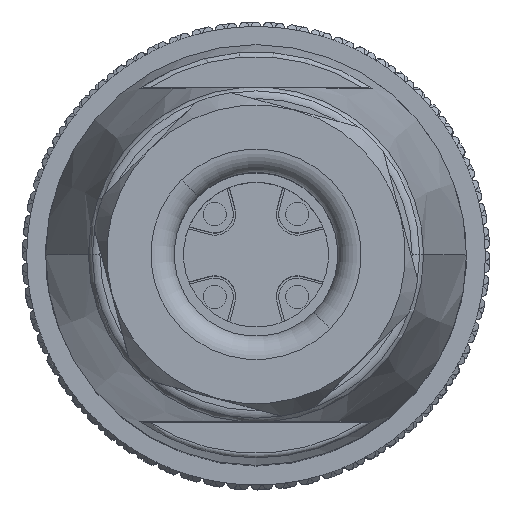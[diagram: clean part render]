
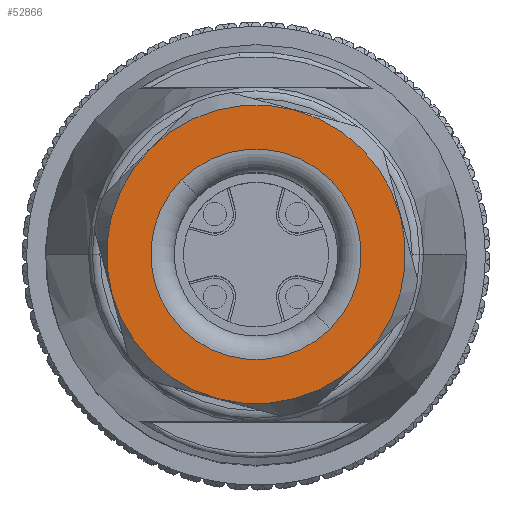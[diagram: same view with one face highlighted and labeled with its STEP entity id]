
A CAD part, top view. The second image highlights one B-rep face of the part: STEP entity #52866.
In plain terms, the highlighted planar face has unit normal (0, 0, 1).
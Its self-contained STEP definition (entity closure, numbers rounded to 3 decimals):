
#17049=CARTESIAN_POINT('',(0.,0.,
39.11));
#17050=DIRECTION('',(0.,0.,-1.));
#17051=DIRECTION('',(0.707,-0.707,0.));
#17052=AXIS2_PLACEMENT_3D('',#17049,#17050,#17051);
#17054=CARTESIAN_POINT('',(0.,0.,
39.11));
#17055=DIRECTION('',(0.,0.,-1.));
#17056=DIRECTION('',(-0.707,0.707,0.));
#17057=AXIS2_PLACEMENT_3D('',#17054,#17055,#17056);
#17059=CARTESIAN_POINT('',(0.,0.,
39.11));
#17060=DIRECTION('',(0.,0.,1.));
#17061=DIRECTION('',(-0.707,0.707,0.));
#17062=AXIS2_PLACEMENT_3D('',#17059,#17060,#17061);
#17064=CARTESIAN_POINT('',(0.,0.,
39.11));
#17065=DIRECTION('',(0.,0.,1.));
#17066=DIRECTION('',(0.707,-0.707,0.));
#17067=AXIS2_PLACEMENT_3D('',#17064,#17065,#17066);
#35081=CARTESIAN_POINT('',(-4.518,4.518,
39.11));
#35083=VERTEX_POINT('',#35081);
#35085=CARTESIAN_POINT('',(4.518,-4.518,
39.11));
#35087=VERTEX_POINT('',#35085);
#35093=CARTESIAN_POINT('',(3.182,-3.182,
39.11));
#35094=CARTESIAN_POINT('',(-3.182,3.182,
39.11));
#35095=VERTEX_POINT('',#35093);
#35096=VERTEX_POINT('',#35094);
#52851=CARTESIAN_POINT('',(0.,0.,
39.11));
#52852=DIRECTION('',(0.,0.,-1.));
#52853=DIRECTION('',(0.707,-0.707,0.));
#52854=AXIS2_PLACEMENT_3D('',#52851,#52852,#52853);
#52855=PLANE('',#52854);
#52857=ORIENTED_EDGE('',*,*,#52856,.F.);
#52859=ORIENTED_EDGE('',*,*,#52858,.F.);
#52860=EDGE_LOOP('',(#52857,#52859));
#52861=FACE_OUTER_BOUND('',#52860,.F.);
#52862=ORIENTED_EDGE('',*,*,#52844,.F.);
#52863=ORIENTED_EDGE('',*,*,#52830,.F.);
#52864=EDGE_LOOP('',(#52862,#52863));
#52865=FACE_BOUND('',#52864,.F.);
#52866=ADVANCED_FACE('',(#52861,#52865),#52855,.F.);
#17053=CIRCLE('',#17052,4.5);
#17058=CIRCLE('',#17057,4.5);
#17063=CIRCLE('',#17062,6.39);
#17068=CIRCLE('',#17067,6.39);
#52830=EDGE_CURVE('',#35096,#35095,#17058,.T.);
#52844=EDGE_CURVE('',#35095,#35096,#17053,.T.);
#52856=EDGE_CURVE('',#35083,#35087,#17063,.T.);
#52858=EDGE_CURVE('',#35087,#35083,#17068,.T.);
